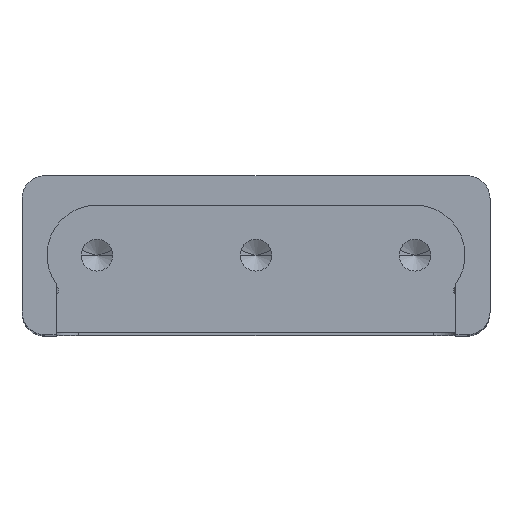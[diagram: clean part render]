
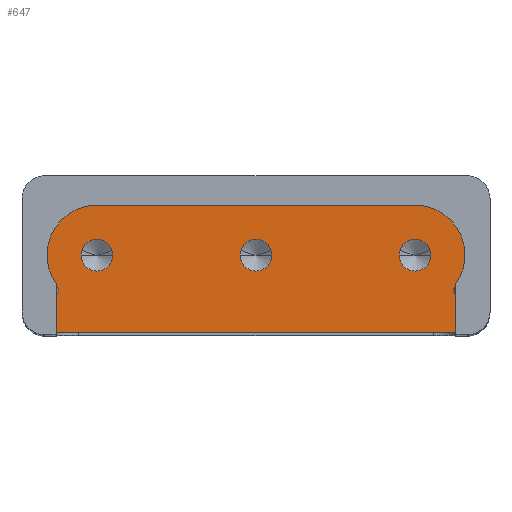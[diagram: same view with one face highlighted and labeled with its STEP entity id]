
A CAD part, top view. The second image highlights one B-rep face of the part: STEP entity #647.
In plain terms, the highlighted planar face has unit normal (0, 0, 1) as drawn and (0, 1, 0) by its records, which use the part's own axes.
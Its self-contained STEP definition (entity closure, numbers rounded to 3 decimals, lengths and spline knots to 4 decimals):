
#160=FACE_BOUND('',#1128,.T.);
#161=FACE_BOUND('',#1129,.T.);
#162=FACE_BOUND('',#1130,.T.);
#163=FACE_BOUND('',#1131,.T.);
#469=CIRCLE('',#3965,0.35);
#470=CIRCLE('',#3966,0.35);
#471=CIRCLE('',#3967,0.35);
#472=CIRCLE('',#3968,1.1);
#473=CIRCLE('',#3969,0.25);
#474=CIRCLE('',#3970,0.25);
#475=CIRCLE('',#3971,1.1);
#647=ADVANCED_FACE('',(#160,#161,#162,#163),#790,.F.);
#790=PLANE('',#3972);
#1128=EDGE_LOOP('',(#1853));
#1129=EDGE_LOOP('',(#1854));
#1130=EDGE_LOOP('',(#1855));
#1131=EDGE_LOOP('',(#1856,#1857,#1858,#1859,#1860,#1861,#1862,#1863));
#1853=ORIENTED_EDGE('',*,*,#2983,.T.);
#1854=ORIENTED_EDGE('',*,*,#2984,.T.);
#1855=ORIENTED_EDGE('',*,*,#2985,.T.);
#1856=ORIENTED_EDGE('',*,*,#2931,.F.);
#1857=ORIENTED_EDGE('',*,*,#2986,.T.);
#1858=ORIENTED_EDGE('',*,*,#2987,.F.);
#1859=ORIENTED_EDGE('',*,*,#2982,.T.);
#1860=ORIENTED_EDGE('',*,*,#2988,.F.);
#1861=ORIENTED_EDGE('',*,*,#2975,.F.);
#1862=ORIENTED_EDGE('',*,*,#2989,.F.);
#1863=ORIENTED_EDGE('',*,*,#2990,.F.);
#2507=VERTEX_POINT('',#5877);
#2508=VERTEX_POINT('',#5879);
#2545=VERTEX_POINT('',#5971);
#2546=VERTEX_POINT('',#5973);
#2548=VERTEX_POINT('',#5979);
#2550=VERTEX_POINT('',#5984);
#2551=VERTEX_POINT('',#5988);
#2552=VERTEX_POINT('',#5990);
#2553=VERTEX_POINT('',#5992);
#2554=VERTEX_POINT('',#5994);
#2555=VERTEX_POINT('',#5998);
#2931=EDGE_CURVE('',#2507,#2508,#3329,.T.);
#2975=EDGE_CURVE('',#2545,#2546,#3359,.T.);
#2982=EDGE_CURVE('',#2548,#2550,#3366,.T.);
#2983=EDGE_CURVE('',#2551,#2551,#469,.T.);
#2984=EDGE_CURVE('',#2552,#2552,#470,.T.);
#2985=EDGE_CURVE('',#2553,#2553,#471,.T.);
#2986=EDGE_CURVE('',#2507,#2554,#472,.T.);
#2987=EDGE_CURVE('',#2548,#2554,#473,.T.);
#2988=EDGE_CURVE('',#2546,#2550,#3367,.T.);
#2989=EDGE_CURVE('',#2555,#2545,#474,.T.);
#2990=EDGE_CURVE('',#2508,#2555,#475,.T.);
#3329=LINE('',#5878,#3609);
#3359=LINE('',#5972,#3639);
#3366=LINE('',#5985,#3646);
#3367=LINE('',#5996,#3647);
#3609=VECTOR('',#4620,1.);
#3639=VECTOR('',#4702,1.);
#3646=VECTOR('',#4711,1.);
#3647=VECTOR('',#4724,1.);
#3965=AXIS2_PLACEMENT_3D('',#5987,#4714,#4715);
#3966=AXIS2_PLACEMENT_3D('',#5989,#4716,#4717);
#3967=AXIS2_PLACEMENT_3D('',#5991,#4718,#4719);
#3968=AXIS2_PLACEMENT_3D('',#5993,#4720,#4721);
#3969=AXIS2_PLACEMENT_3D('',#5995,#4722,#4723);
#3970=AXIS2_PLACEMENT_3D('',#5997,#4725,#4726);
#3971=AXIS2_PLACEMENT_3D('',#5999,#4727,#4728);
#3972=AXIS2_PLACEMENT_3D('',#6000,#4729,#4730);
#4620=DIRECTION('',(1.,0.,0.));
#4702=DIRECTION('',(0.,0.,1.));
#4711=DIRECTION('',(0.,0.,1.));
#4714=DIRECTION('',(0.,-1.,0.));
#4715=DIRECTION('',(0.,0.,-1.));
#4716=DIRECTION('',(0.,-1.,0.));
#4717=DIRECTION('',(0.,0.,-1.));
#4718=DIRECTION('',(0.,-1.,0.));
#4719=DIRECTION('',(0.,0.,-1.));
#4720=DIRECTION('',(0.,1.,0.));
#4721=DIRECTION('',(-1.,0.,0.));
#4722=DIRECTION('',(0.,1.,0.));
#4723=DIRECTION('',(-1.,0.,0.));
#4724=DIRECTION('',(-1.,0.,0.));
#4725=DIRECTION('',(0.,1.,0.));
#4726=DIRECTION('',(-1.,0.,0.));
#4727=DIRECTION('',(0.,-1.,0.));
#4728=DIRECTION('',(1.,0.,0.));
#4729=DIRECTION('',(0.,-1.,0.));
#4730=DIRECTION('',(0.,0.,-1.));
#5877=CARTESIAN_POINT('',(-3.5,0.,-1.4));
#5878=CARTESIAN_POINT('',(-4.6,0.,-1.4));
#5879=CARTESIAN_POINT('',(3.5,0.,-1.4));
#5971=CARTESIAN_POINT('',(4.4,0.,0.6199));
#5972=CARTESIAN_POINT('',(4.4,0.,-1.4));
#5973=CARTESIAN_POINT('',(4.4,0.,1.4));
#5979=CARTESIAN_POINT('',(-4.4,0.,0.6199));
#5984=CARTESIAN_POINT('',(-4.4,0.,1.4));
#5985=CARTESIAN_POINT('',(-4.4,0.,-1.4));
#5987=CARTESIAN_POINT('',(-3.5,0.,-0.3));
#5988=CARTESIAN_POINT('',(-3.5,0.,-0.65));
#5989=CARTESIAN_POINT('',(3.5,0.,-0.3));
#5990=CARTESIAN_POINT('',(3.5,0.,-0.65));
#5991=CARTESIAN_POINT('',(0.,0.,-0.3));
#5992=CARTESIAN_POINT('',(0.,0.,-0.65));
#5993=CARTESIAN_POINT('',(-3.5,0.,-0.3));
#5994=CARTESIAN_POINT('',(-4.4,0.,0.3325));
#5995=CARTESIAN_POINT('',(-4.6045,0.,0.4762));
#5996=CARTESIAN_POINT('',(4.6,0.,1.4));
#5997=CARTESIAN_POINT('',(4.6045,0.,0.4762));
#5998=CARTESIAN_POINT('',(4.4,0.,0.3325));
#5999=CARTESIAN_POINT('',(3.5,0.,-0.3));
#6000=CARTESIAN_POINT('',(0.,0.,0.));
